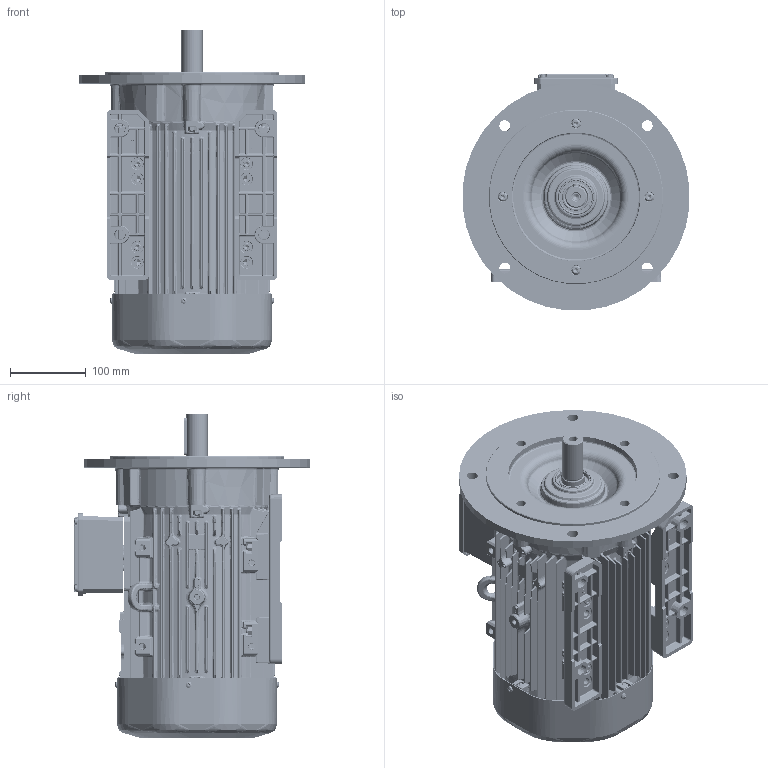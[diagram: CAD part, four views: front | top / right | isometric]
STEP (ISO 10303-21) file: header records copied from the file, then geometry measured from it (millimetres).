
FILE_DESCRIPTION(/* description */ (''),/* implementation_level */ '2;1');
FILE_NAME(/* name */ 'OUTLOOK VIEW QH112 PA B35 - BIGGER FF265 SPL.stp',/* time_stamp */ '2021-09-13T12:42:47+03:00',/* author */ (''),/* organization */ (''),/* preprocessor_version */ 'ST-DEVELOPER v16',/* originating_system */ 'SIEMENS PLM Software NX 11.0',/* authorisation */ '');
FILE_SCHEMA (('AUTOMOTIVE_DESIGN { 1 0 10303 214 3 1 1 1 }'));
Products named in the file (1): 26062CE45B9Cd5rs
Bounding box: 298.86 x 311.93 x 427.6 mm (x, y, z)
Volume: 3197641.1 mm3; surface area: 1388712 mm2
Topology: 80 solids, 86 shells, 13072 faces, 30781 edges, 17398 vertices
Faces by surface type: cylinder 4298, bspline 3770, plane 2639, sphere 1028, torus 642, cone 641, extrusion 54
Full cylindrical faces by diameter (mm): 2 x14, 3 x2, 3.3 x4, 3.7 x4, 3.985 x1, 4 x9, 4.22 x1, 4.6 x3, 4.722 x2, 5 x11, 6 x12, 6.4 x12, 6.6 x4, 8 x9, 8.4 x1, 8.5 x1, 10 x12, 10.5 x1, 12 x12, 12.5 x4, 14.5 x4, 16 x1, 23.38 x2, 24.4 x1, 25 x3, 27.4 x1, 28 x1, 28.6 x1, 29.4 x2, 30 x5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
Entity records: 443871 total; most frequent: CARTESIAN_POINT 169596, ORIENTED_EDGE 58724, DIRECTION 54604, EDGE_CURVE 29362, AXIS2_PLACEMENT_3D 22529, VERTEX_POINT 17206, EDGE_LOOP 14300, ADVANCED_FACE 13065
